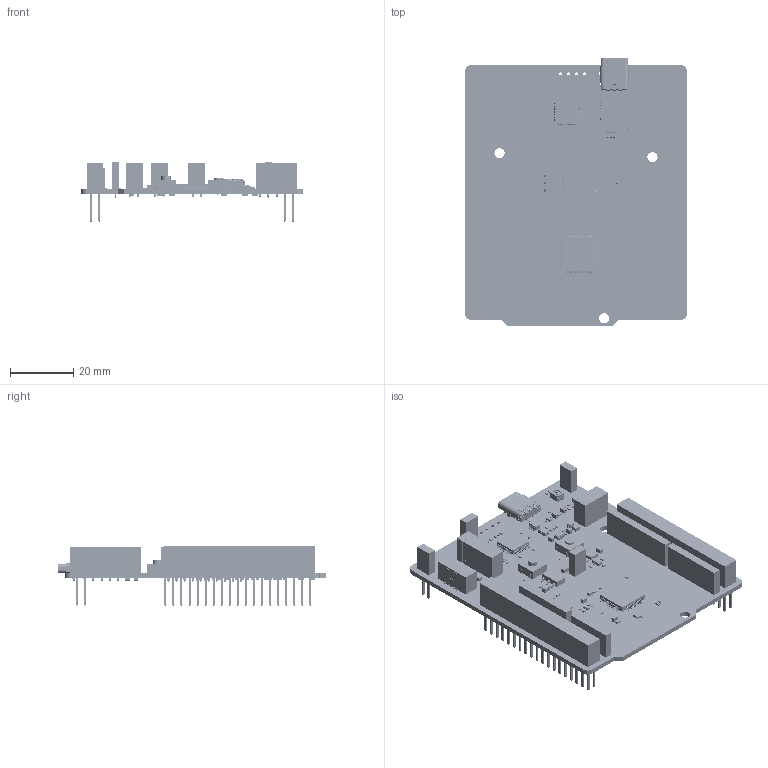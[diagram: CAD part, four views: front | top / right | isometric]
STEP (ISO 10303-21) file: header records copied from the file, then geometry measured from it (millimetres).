
FILE_DESCRIPTION(('Open CASCADE Model'),'2;1');
FILE_NAME('Open CASCADE Shape Model','2023-04-27T15:28:36',('Author'),( 'Open CASCADE'),'Open CASCADE STEP processor 6.8','Open CASCADE 6.8' ,'Unknown');
FILE_SCHEMA(('AUTOMOTIVE_DESIGN { 1 0 10303 214 1 1 1 1 }'));
Length unit declared in the file: millimetre
Products named in the file (319): PCB; Board; Open CASCADE STEP translator 6.8 1.1.1; JP11; TSW-102-07-G-S; _TSW-102-07-G-S_body; _T-1S6-07-TSW-1-07-2-S; 6600255584; Extruded; CN1; c12401826; MSBR-3; MSBR-2; MSBR-1; _12401826E412A_ASM_ASM; R25; R0402; 6599579520; R27; 6600254944; U12; DFN6-EPAD_3X3_P095; 6600253744; JP10; 6599509200; JP9; JP6; JP8; JP7; SB54; R0603; 6599580960; SB5; SB7; 6599581520; SB4; SB6; R38; 6599580480; SB2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
Assembly tree (609 placements, depth 4):
  PCB
    Board
      Open CASCADE STEP translator 6.8 1.1.1
    JP11
      TSW-102-07-G-S
        _TSW-102-07-G-S_body
        _T-1S6-07-TSW-1-07-2-S
      6600255584
        Extruded
    CN1
      c12401826
        MSBR-3
        MSBR-2
        MSBR-1
        _12401826E412A_ASM_ASM
    R25
      R0402
      6599579520
        Extruded
    R27
      R0402
      6600254944
        Extruded
    U12
      DFN6-EPAD_3X3_P095
      6600253744
        Extruded
    JP10
      TSW-102-07-G-S
        _TSW-102-07-G-S_body
        _T-1S6-07-TSW-1-07-2-S
      6599509200
        Extruded
    JP9
      TSW-102-07-G-S
        _TSW-102-07-G-S_body
        _T-1S6-07-TSW-1-07-2-S
      6599509200
        Extruded
    JP6
      TSW-102-07-G-S
        _TSW-102-07-G-S_body
        _T-1S6-07-TSW-1-07-2-S
      6599509200
        Extruded
    JP8
      TSW-102-07-G-S
        _TSW-102-07-G-S_body
        _T-1S6-07-TSW-1-07-2-S
      6599509200
        Extruded
    JP7
      TSW-102-07-G-S
        _TSW-102-07-G-S_body
        _T-1S6-07-TSW-1-07-2-S
      6599509200
        Extruded
    SB54
      R0603
      6599580960
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Bounding box: 70 x 84.72 x 18.67 mm (x, y, z)
Volume: 21330.1 mm3; surface area: 35502.4 mm2
Topology: 555 solids, 570 shells, 29104 faces, 70656 edges, 41774 vertices
Faces by surface type: plane 15347, cylinder 6829, bspline 4536, sphere 1762, torus 370, revolution 184, cone 76
Full cylindrical faces by diameter (mm): 0.15 x2, 0.3 x1, 0.65 x1, 0.97 x2, 1 x110, 1.1 x32, 1.19 x2, 3.2 x3
Entity records: 358175 total; most frequent: CARTESIAN_POINT 67956, ORIENTED_EDGE 49290, DIRECTION 46625, EDGE_CURVE 24645, LINE 20561, VECTOR 20561, VERTEX_POINT 15721, AXIS2_PLACEMENT_3D 13028
